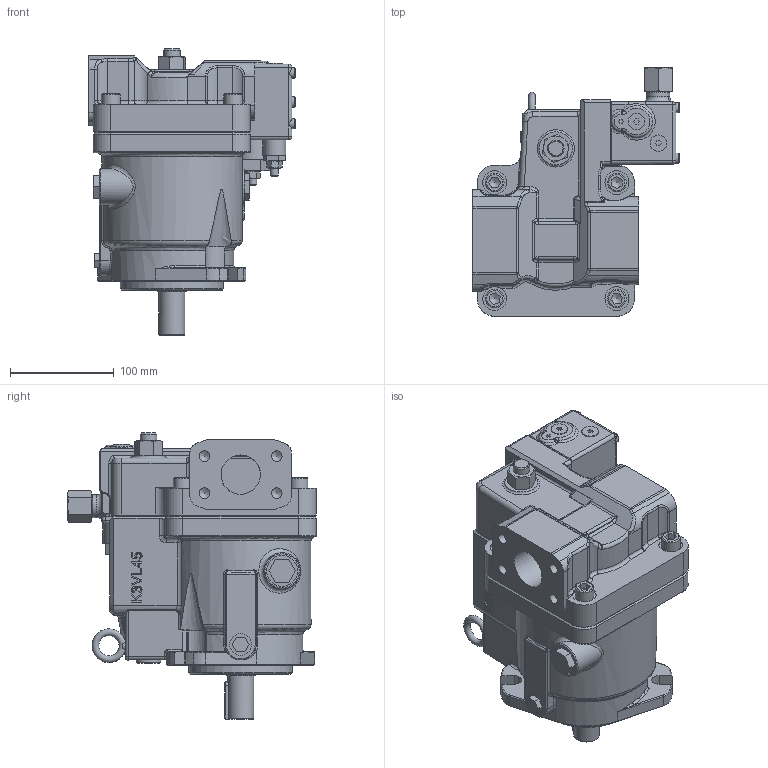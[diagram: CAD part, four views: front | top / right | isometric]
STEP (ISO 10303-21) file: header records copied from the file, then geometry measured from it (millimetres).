
FILE_DESCRIPTION((''),'2;1');
FILE_NAME('I:\3D Step files\Approved for WEB\K3V\K3VL45B 10RMM P0.stp','2013-03-05T08:59:32',('MNORMAN'),(''),'Autodesk Inventor 2013','Autodesk Inventor 2013','');
FILE_SCHEMA(('AUTOMOTIVE_DESIGN { 1 0 10303 214 1 1 1 1 }'));
Length unit declared in the file: millimetre
Products named in the file (1): Part3
Bounding box: 199 x 240 x 276.2 mm (x, y, z)
Volume: 4850277.3 mm3; surface area: 301907.2 mm2
Topology: 15 solids, 16 shells, 1046 faces, 2500 edges, 1516 vertices
Faces by surface type: plane 437, cylinder 275, bspline 149, cone 96, torus 67, sphere 22
Full cylindrical faces by diameter (mm): 4 x1, 4.917 x4, 6 x4, 6.5 x4, 6.647 x1, 8 x5, 8.376 x4, 10 x4, 10.106 x8, 11 x4, 12 x4, 12.376 x1, 13.835 x1, 15.5 x4, 16 x4, 18 x4, 21 x1, 22 x2, 22.4 x1, 23 x4, 24 x1, 25 x2, 30 x3, 30.032 x1, 32 x1, 36 x1, 38 x1, 90 x1, 100 x1, 105 x1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
Entity records: 34739 total; most frequent: CARTESIAN_POINT 11203, ORIENTED_EDGE 4608, DIRECTION 4432, EDGE_CURVE 2304, AXIS2_PLACEMENT_3D 1687, VERTEX_POINT 1475, EDGE_LOOP 1247, STYLED_ITEM 1061
